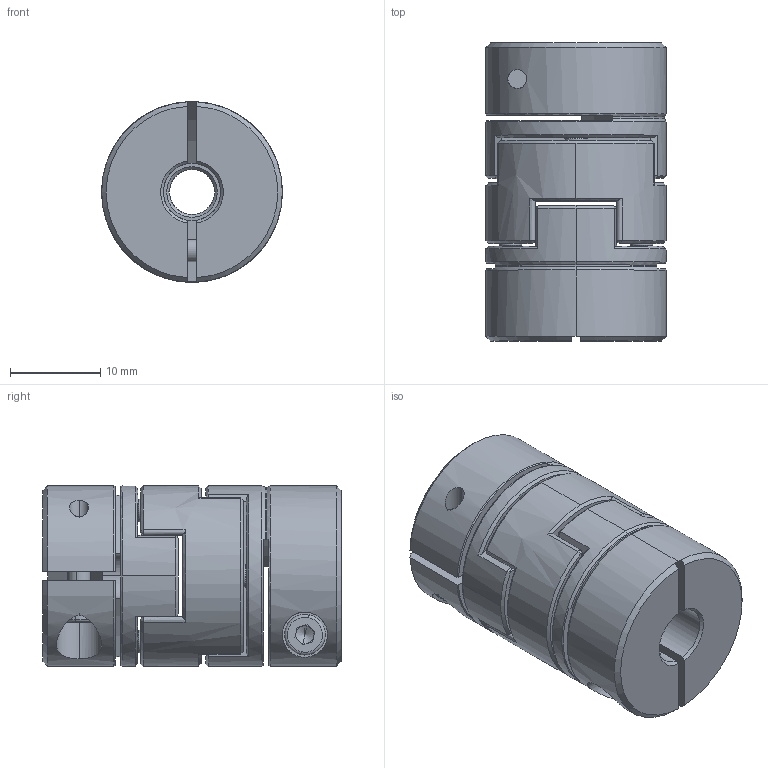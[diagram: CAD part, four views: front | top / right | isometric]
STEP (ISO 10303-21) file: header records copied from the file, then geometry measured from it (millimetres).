
FILE_DESCRIPTION (( 'STEP AP203' ), '1' );
FILE_NAME ('LZ-B-D20L33-5-6.35.STEP', '2021-10-29T05:36:09', ( '' ), ( '' ), 'SwSTEP 2.0', 'SolidWorks 2018', '' );
FILE_SCHEMA (( 'CONFIG_CONTROL_DESIGN' ));
Length unit declared in the file: millimetre
Products named in the file (1): LZ-B-D20L33-5-6.35
Bounding box: 20 x 33 x 20 mm (x, y, z)
Volume: 8639.8 mm3; surface area: 6109.2 mm2
Topology: 3 solids, 3 shells, 248 faces, 632 edges, 400 vertices
Faces by surface type: plane 112, cylinder 64, cone 42, bspline 26, torus 4
Entity records: 10263 total; most frequent: CARTESIAN_POINT 4455, ORIENTED_EDGE 1256, DIRECTION 1116, EDGE_CURVE 628, AXIS2_PLACEMENT_3D 431, VERTEX_POINT 400, EDGE_LOOP 276, LINE 254
